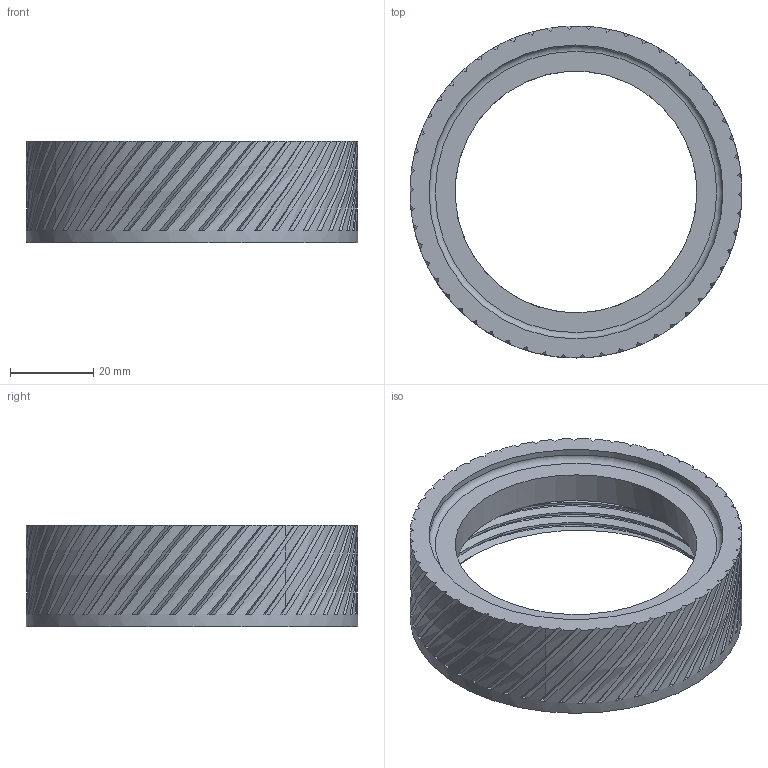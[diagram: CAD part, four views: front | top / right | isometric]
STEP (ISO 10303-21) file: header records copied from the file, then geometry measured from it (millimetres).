
FILE_DESCRIPTION(/* description */ ('STEP AP242','CAx-IF Rec.Pracs.---Representation and Presentation of Product Manufacturing Information (PMI)---4.0---2014-10-13','CAx-IF Rec.Pracs.---3D Tessellated Geometry---0.4---2014-09-14','2;1'),/* implementation_level */ '2;1');
FILE_NAME(/* name */ '64692430cac4670533c209d3',/* time_stamp */ '2023-05-20T19:49:04Z',/* author */ (''),/* organization */ (''),/* preprocessor_version */ 'ST-DEVELOPER v19.4',/* originating_system */ ' ',/* authorisation */ ' ');
FILE_SCHEMA (('AP242_MANAGED_MODEL_BASED_3D_ENGINEERING_MIM_LF { 1 0 10303 442 1 1 4 }'));
Length unit declared in the file: metre
Products named in the file (1): Base 23mm NoMagnet NoLug
Bounding box: 79.6 x 79.6 x 24.4 mm (x, y, z)
Volume: 34829.4 mm3; surface area: 17668.5 mm2
Topology: 1 solids, 1 shells, 234 faces, 688 edges, 459 vertices
Faces by surface type: bspline 153, plane 69, cylinder 8, cone 3, torus 1
Full cylindrical faces by diameter (mm): 58 x1, 70.5 x1, 79.6 x1
Entity records: 14354 total; most frequent: CARTESIAN_POINT 9844, ORIENTED_EDGE 1336, EDGE_CURVE 668, VERTEX_POINT 448, DIRECTION 445, B_SPLINE_CURVE_WITH_KNOTS 335, EDGE_LOOP 240, FACE_BOUND 240
